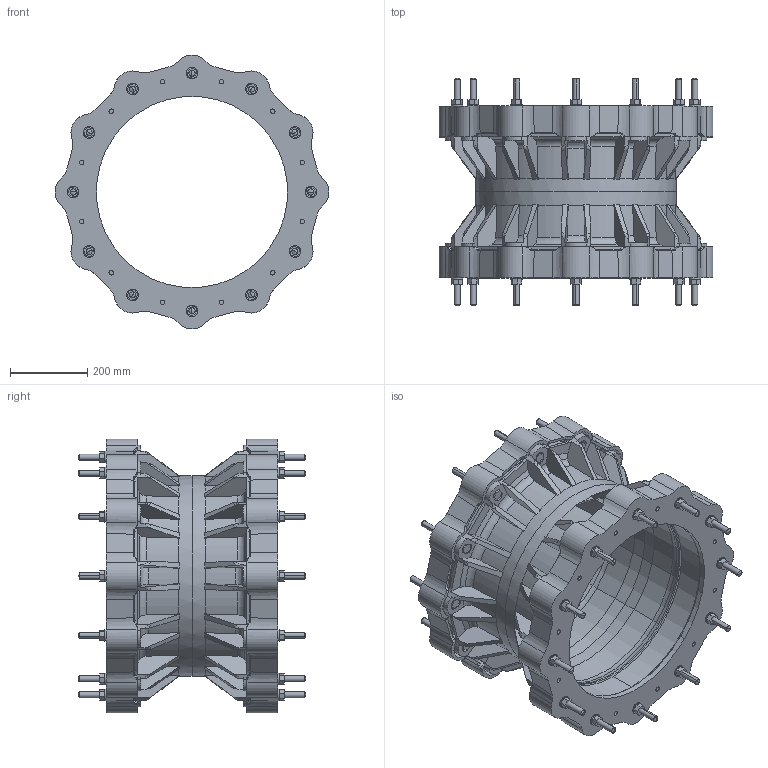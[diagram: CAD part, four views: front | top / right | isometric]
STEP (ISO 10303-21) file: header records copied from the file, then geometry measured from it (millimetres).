
FILE_DESCRIPTION((''),'2;1');
FILE_NAME('BIM_13198_16_ASM','2020-07-01T',('MReader'),(''),'CREO PARAMETRIC BY PTC INC, 2016130','CREO PARAMETRIC BY PTC INC, 2016130','');
FILE_SCHEMA(('CONFIG_CONTROL_DESIGN'));
Length unit declared in the file: millimetre
Products named in the file (4): BIM_13445; 448-492_GASKET_BIM; BIM_13417_1; BIM_13198_16_ASM
Assembly tree (5 placements, depth 2):
  BIM_13198_16_ASM
    BIM_13445
    448-492_GASKET_BIM  x2
    BIM_13417_1  x2
Bounding box: 710 x 589 x 710 mm (x, y, z)
Volume: 23345255.9 mm3; surface area: 4104199.2 mm2
Topology: 5 solids, 5 shells, 1928 faces, 5288 edges, 3468 vertices
Faces by surface type: plane 948, cylinder 564, cone 160, bspline 144, torus 64, sphere 48
Entity records: 53672 total; most frequent: CARTESIAN_POINT 17652, ORIENTED_EDGE 8012, DIRECTION 6830, EDGE_CURVE 4006, VERTEX_POINT 2650, AXIS2_PLACEMENT_3D 2556, VECTOR 1718, LINE 1718
